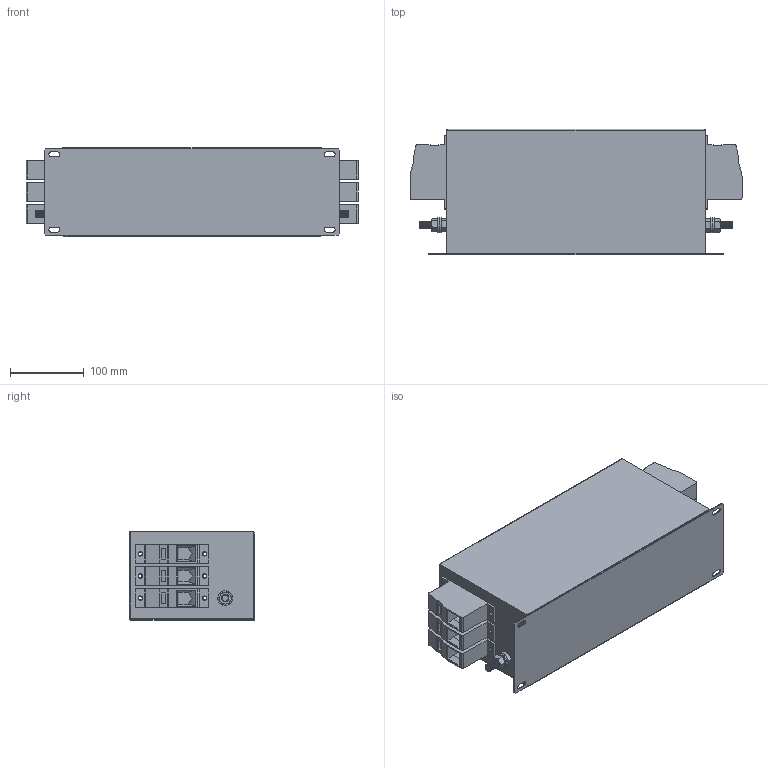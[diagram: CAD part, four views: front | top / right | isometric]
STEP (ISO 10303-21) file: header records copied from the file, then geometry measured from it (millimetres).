
FILE_DESCRIPTION (( 'STEP AP203' ), '1' );
FILE_NAME ('NF-K-180b.STEP', '2008-12-08T12:31:50', ( 'Owner' ), ( 'EPA GmbH' ), 'SwSTEP 2.0', 'SolidWorks 2007', '' );
FILE_SCHEMA (( 'CONFIG_CONTROL_DESIGN' ));
Length unit declared in the file: millimetre
Products named in the file (8): HDFK-95; NF-K-180b; NF-K-180; NK-K-180; M10x30 Earth post; Hex Screw_AM_B18.6.7M - M10 x 1.5 x 30 Plain HHMS --30S; Flat Washer Narrow_AM_B18.22M - Plain washer, 10 mm, narrow; Hex Nut Style 1_AM_B18.2.4.1M - Hex nut, Style 1,  M10 x 1.5, with 16mm WAF --D-N
Assembly tree (14 placements, depth 4):
  NF-K-180b
    NF-K-180
      M10x30 Earth post  x2
        Hex Screw_AM_B18.6.7M - M10 x 1.5 x 30 Plain HHMS --30S
        Flat Washer Narrow_AM_B18.22M - Plain washer, 10 mm, narrow
        Hex Nut Style 1_AM_B18.2.4.1M - Hex nut, Style 1,  M10 x 1.5, with 16mm WAF --D-N
      HDFK-95  x6
      NK-K-180
Bounding box: 450 x 170 x 120 mm (x, y, z)
Volume: 7343501.8 mm3; surface area: 508233.1 mm2
Topology: 15 solids, 15 shells, 915 faces, 2337 edges, 1494 vertices
Faces by surface type: plane 494, cylinder 219, cone 200, sphere 2
Entity records: 11367 total; most frequent: CARTESIAN_POINT 1971, DIRECTION 1835, ORIENTED_EDGE 1706, EDGE_CURVE 853, AXIS2_PLACEMENT_3D 676, VERTEX_POINT 540, VECTOR 483, LINE 483
